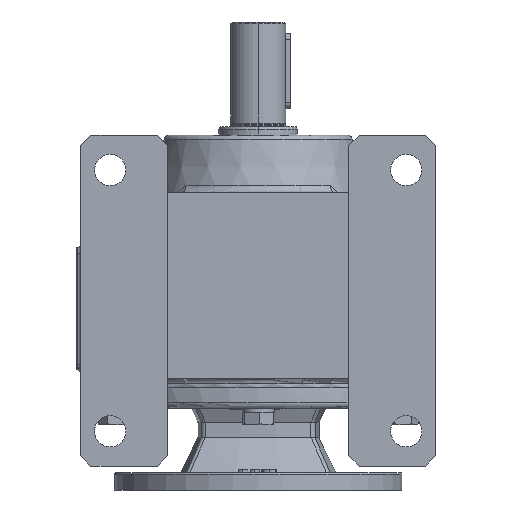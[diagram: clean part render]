
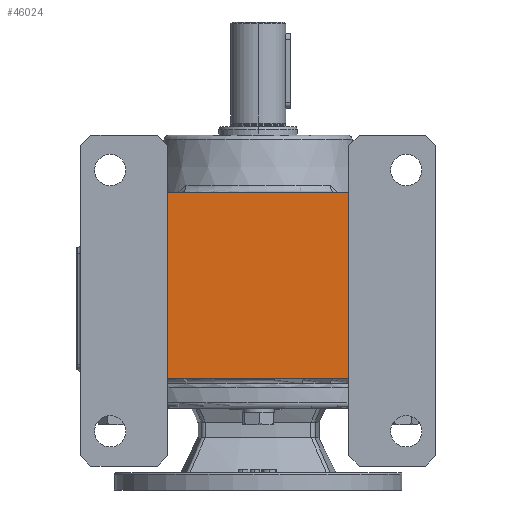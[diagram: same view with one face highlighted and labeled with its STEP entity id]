
A CAD part, front view. The second image highlights one B-rep face of the part: STEP entity #46024.
In plain terms, the highlighted planar face has unit normal (0, -1, 0).
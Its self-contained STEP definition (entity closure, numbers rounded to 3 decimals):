
#5978 = CARTESIAN_POINT ( 'NONE',  ( -52., -87., 0. ) ) ;
#5981 = CARTESIAN_POINT ( 'NONE',  ( 52., -87., -107. ) ) ;
#5983 = CARTESIAN_POINT ( 'NONE',  ( 52., -87., 0. ) ) ;
#5987 = CARTESIAN_POINT ( 'NONE',  ( -52., -87., -107. ) ) ;
#6774 = VECTOR ( 'NONE', #61571, 1000. ) ;
#6808 = VECTOR ( 'NONE', #61565, 1000. ) ;
#6809 = VECTOR ( 'NONE', #61568, 1000. ) ;
#6812 = VECTOR ( 'NONE', #61574, 1000. ) ;
#7367 = EDGE_CURVE ( 'NONE', #51001, #50999, #61563, .T. ) ;
#7368 = EDGE_CURVE ( 'NONE', #51005, #50999, #61566, .T. ) ;
#7369 = EDGE_CURVE ( 'NONE', #51001, #50996, #61569, .T. ) ;
#7370 = EDGE_CURVE ( 'NONE', #51005, #50996, #61572, .T. ) ;
#41496 = ORIENTED_EDGE ( 'NONE', *, *, #7368, .T. ) ;
#41498 = ORIENTED_EDGE ( 'NONE', *, *, #7369, .T. ) ;
#41499 = ORIENTED_EDGE ( 'NONE', *, *, #7367, .F. ) ;
#41500 = ORIENTED_EDGE ( 'NONE', *, *, #7370, .F. ) ;
#46024 = ADVANCED_FACE ( 'NONE', ( #73815 ), #76122, .F. ) ;
#50996 = VERTEX_POINT ( 'NONE', #5978 ) ;
#50999 = VERTEX_POINT ( 'NONE', #5981 ) ;
#51001 = VERTEX_POINT ( 'NONE', #5983 ) ;
#51005 = VERTEX_POINT ( 'NONE', #5987 ) ;
#52191 = EDGE_LOOP ( 'NONE', ( #41496, #41499, #41498, #41500 ) ) ;
#61563 = LINE ( 'NONE', #61564, #6808 ) ;
#61564 = CARTESIAN_POINT ( 'NONE',  ( 52., -87., -22. ) ) ;
#61565 = DIRECTION ( 'NONE',  ( 0., 0., -1. ) ) ;
#61566 = LINE ( 'NONE', #61567, #6809 ) ;
#61567 = CARTESIAN_POINT ( 'NONE',  ( -102., -87., -107. ) ) ;
#61568 = DIRECTION ( 'NONE',  ( 1., 0., 0. ) ) ;
#61569 = LINE ( 'NONE', #61570, #6774 ) ;
#61570 = CARTESIAN_POINT ( 'NONE',  ( -114.086, -87., 0. ) ) ;
#61571 = DIRECTION ( 'NONE',  ( -1., 0., 0. ) ) ;
#61572 = LINE ( 'NONE', #61573, #6812 ) ;
#61573 = CARTESIAN_POINT ( 'NONE',  ( -52., -87., -22. ) ) ;
#61574 = DIRECTION ( 'NONE',  ( 0., 0., 1. ) ) ;
#73815 = FACE_OUTER_BOUND ( 'NONE', #52191, .T. ) ;
#73818 = AXIS2_PLACEMENT_3D ( 'NONE', #76123, #76124, #76125 ) ;
#76122 = PLANE ( 'NONE',  #73818 ) ;
#76123 = CARTESIAN_POINT ( 'NONE',  ( -114.086, -87., -112. ) ) ;
#76124 = DIRECTION ( 'NONE',  ( 0., 1., 0. ) ) ;
#76125 = DIRECTION ( 'NONE',  ( 0., 0., 1. ) ) ;
